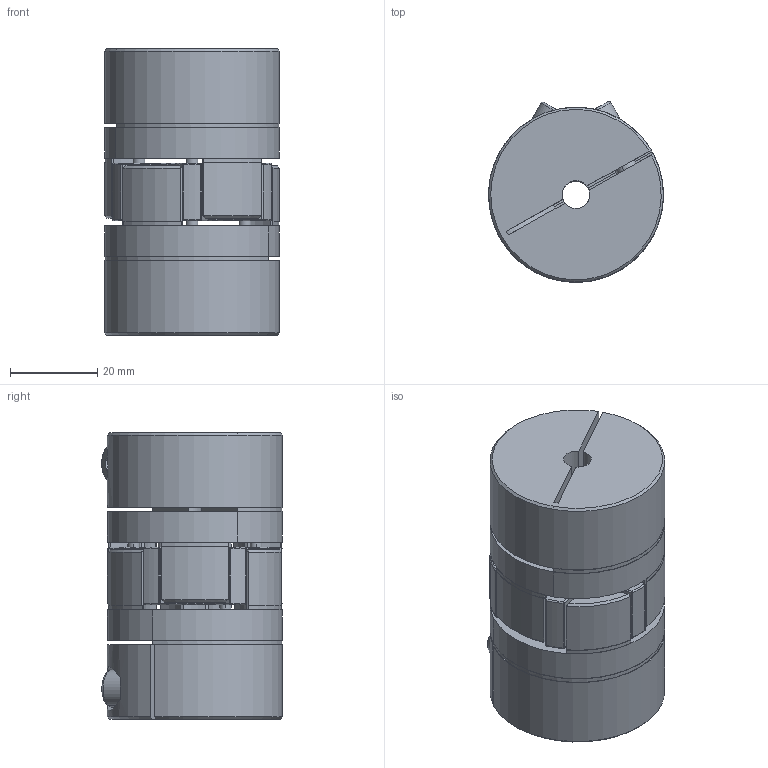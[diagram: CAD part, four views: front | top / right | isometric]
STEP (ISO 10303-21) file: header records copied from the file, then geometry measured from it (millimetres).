
FILE_DESCRIPTION (( 'STEP AP203' ), '1' );
FILE_NAME ('ACOPLAMENTO ADS-18.STEP', '2021-11-04T11:44:43', ( '' ), ( '' ), 'SwSTEP 2.0', 'SolidWorks 2019', '' );
FILE_SCHEMA (( 'CONFIG_CONTROL_DESIGN' ));
Length unit declared in the file: millimetre
Products named in the file (4): ACOPLAMENTO ADS-18; CORPO ADS 18; ELASTÔMERO_ADS 18; DIN 912_M5x16
Assembly tree (5 placements, depth 2):
  ACOPLAMENTO ADS-18
    ELASTÔMERO_ADS 18
    CORPO ADS 18  x2
    DIN 912_M5x16  x2
Bounding box: 40 x 41.31 x 65.5 mm (x, y, z)
Volume: 71973.2 mm3; surface area: 24839.3 mm2
Topology: 5 solids, 5 shells, 446 faces, 1007 edges, 580 vertices
Faces by surface type: cylinder 141, plane 129, torus 104, cone 36, sphere 28, bspline 8
Entity records: 9834 total; most frequent: DIRECTION 1864, CARTESIAN_POINT 1768, ORIENTED_EDGE 1464, AXIS2_PLACEMENT_3D 828, EDGE_CURVE 732, CIRCLE 491, VERTEX_POINT 420, EDGE_LOOP 354
